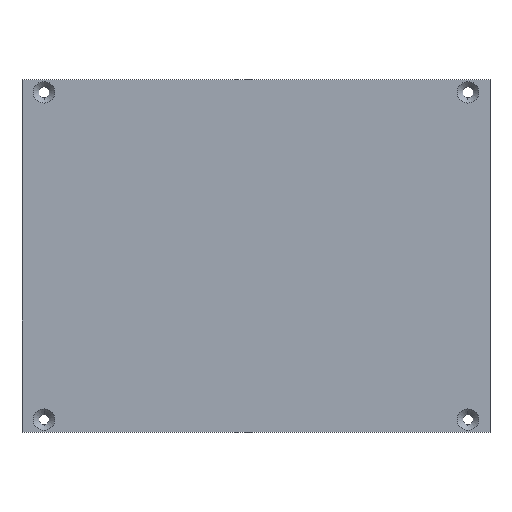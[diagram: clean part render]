
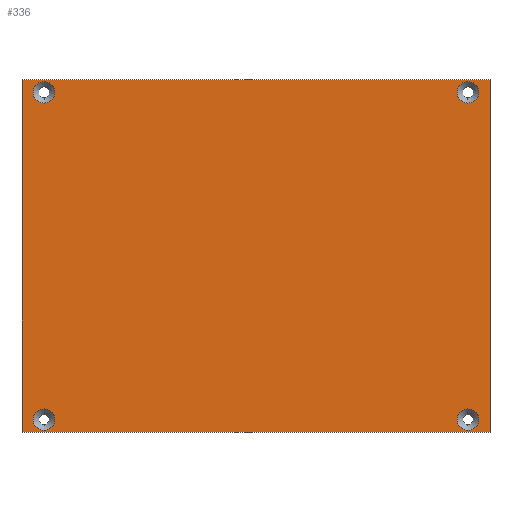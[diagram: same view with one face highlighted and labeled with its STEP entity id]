
A CAD part, top view. The second image highlights one B-rep face of the part: STEP entity #336.
In plain terms, the highlighted planar face has unit normal (0, 0, 1).
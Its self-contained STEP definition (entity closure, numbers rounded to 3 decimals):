
#1=DIRECTION('',(0.,-1.,0.));
#2=VECTOR('',#1,109.596);
#3=CARTESIAN_POINT('',(72.85,398.577,72.5));
#4=LINE('',#3,#2);
#5=DIRECTION('',(-1.,0.,0.));
#6=VECTOR('',#5,145.7);
#7=CARTESIAN_POINT('',(72.85,288.981,72.5));
#8=LINE('',#7,#6);
#9=CARTESIAN_POINT('',(-66.,394.727,72.5));
#10=DIRECTION('',(0.,0.,1.));
#11=DIRECTION('',(0.,1.,0.));
#12=AXIS2_PLACEMENT_3D('',#9,#10,#11);
#14=CARTESIAN_POINT('',(-66.,394.727,72.5));
#15=DIRECTION('',(0.,0.,1.));
#16=DIRECTION('',(0.,-1.,0.));
#17=AXIS2_PLACEMENT_3D('',#14,#15,#16);
#19=CARTESIAN_POINT('',(-66.,292.831,72.5));
#20=DIRECTION('',(0.,0.,1.));
#21=DIRECTION('',(0.,1.,0.));
#22=AXIS2_PLACEMENT_3D('',#19,#20,#21);
#24=CARTESIAN_POINT('',(-66.,292.831,72.5));
#25=DIRECTION('',(0.,0.,1.));
#26=DIRECTION('',(0.,-1.,0.));
#27=AXIS2_PLACEMENT_3D('',#24,#25,#26);
#29=CARTESIAN_POINT('',(66.,292.831,72.5));
#30=DIRECTION('',(0.,0.,1.));
#31=DIRECTION('',(0.,1.,0.));
#32=AXIS2_PLACEMENT_3D('',#29,#30,#31);
#34=CARTESIAN_POINT('',(66.,292.831,72.5));
#35=DIRECTION('',(0.,0.,1.));
#36=DIRECTION('',(0.,-1.,0.));
#37=AXIS2_PLACEMENT_3D('',#34,#35,#36);
#39=CARTESIAN_POINT('',(66.,394.727,72.5));
#40=DIRECTION('',(0.,0.,1.));
#41=DIRECTION('',(0.,1.,0.));
#42=AXIS2_PLACEMENT_3D('',#39,#40,#41);
#44=CARTESIAN_POINT('',(66.,394.727,72.5));
#45=DIRECTION('',(0.,0.,1.));
#46=DIRECTION('',(0.,-1.,0.));
#47=AXIS2_PLACEMENT_3D('',#44,#45,#46);
#57=DIRECTION('',(-1.,0.,0.));
#58=VECTOR('',#57,145.7);
#59=CARTESIAN_POINT('',(72.85,398.577,72.5));
#60=LINE('',#59,#58);
#65=DIRECTION('',(0.,-1.,0.));
#66=VECTOR('',#65,109.596);
#67=CARTESIAN_POINT('',(-72.85,398.577,72.5));
#68=LINE('',#67,#66);
#233=CARTESIAN_POINT('',(72.85,398.577,72.5));
#234=CARTESIAN_POINT('',(72.85,288.981,72.5));
#235=VERTEX_POINT('',#233);
#236=VERTEX_POINT('',#234);
#237=CARTESIAN_POINT('',(-72.85,288.981,72.5));
#238=VERTEX_POINT('',#237);
#239=CARTESIAN_POINT('',(-72.85,398.577,72.5));
#240=VERTEX_POINT('',#239);
#241=CARTESIAN_POINT('',(-66.,398.087,72.5));
#242=CARTESIAN_POINT('',(-66.,391.367,72.5));
#243=VERTEX_POINT('',#241);
#244=VERTEX_POINT('',#242);
#245=CARTESIAN_POINT('',(-66.,296.191,72.5));
#246=CARTESIAN_POINT('',(-66.,289.471,72.5));
#247=VERTEX_POINT('',#245);
#248=VERTEX_POINT('',#246);
#249=CARTESIAN_POINT('',(66.,296.191,72.5));
#250=CARTESIAN_POINT('',(66.,289.471,72.5));
#251=VERTEX_POINT('',#249);
#252=VERTEX_POINT('',#250);
#253=CARTESIAN_POINT('',(66.,398.087,72.5));
#254=CARTESIAN_POINT('',(66.,391.367,72.5));
#255=VERTEX_POINT('',#253);
#256=VERTEX_POINT('',#254);
#297=CARTESIAN_POINT('',(110.002,283.779,72.5));
#298=DIRECTION('',(0.,0.,1.));
#299=DIRECTION('',(0.,1.,0.));
#300=AXIS2_PLACEMENT_3D('',#297,#298,#299);
#301=PLANE('',#300);
#303=ORIENTED_EDGE('',*,*,#302,.T.);
#305=ORIENTED_EDGE('',*,*,#304,.T.);
#307=ORIENTED_EDGE('',*,*,#306,.F.);
#309=ORIENTED_EDGE('',*,*,#308,.F.);
#310=EDGE_LOOP('',(#303,#305,#307,#309));
#311=FACE_OUTER_BOUND('',#310,.F.);
#313=ORIENTED_EDGE('',*,*,#312,.T.);
#315=ORIENTED_EDGE('',*,*,#314,.T.);
#316=EDGE_LOOP('',(#313,#315));
#317=FACE_BOUND('',#316,.F.);
#319=ORIENTED_EDGE('',*,*,#318,.T.);
#321=ORIENTED_EDGE('',*,*,#320,.T.);
#322=EDGE_LOOP('',(#319,#321));
#323=FACE_BOUND('',#322,.F.);
#325=ORIENTED_EDGE('',*,*,#324,.T.);
#327=ORIENTED_EDGE('',*,*,#326,.T.);
#328=EDGE_LOOP('',(#325,#327));
#329=FACE_BOUND('',#328,.F.);
#331=ORIENTED_EDGE('',*,*,#330,.T.);
#333=ORIENTED_EDGE('',*,*,#332,.T.);
#334=EDGE_LOOP('',(#331,#333));
#335=FACE_BOUND('',#334,.F.);
#336=ADVANCED_FACE('',(#311,#317,#323,#329,#335),#301,.T.);
#13=CIRCLE('',#12,3.36);
#18=CIRCLE('',#17,3.36);
#23=CIRCLE('',#22,3.36);
#28=CIRCLE('',#27,3.36);
#33=CIRCLE('',#32,3.36);
#38=CIRCLE('',#37,3.36);
#43=CIRCLE('',#42,3.36);
#48=CIRCLE('',#47,3.36);
#302=EDGE_CURVE('',#235,#236,#4,.T.);
#304=EDGE_CURVE('',#236,#238,#8,.T.);
#306=EDGE_CURVE('',#240,#238,#68,.T.);
#308=EDGE_CURVE('',#235,#240,#60,.T.);
#312=EDGE_CURVE('',#243,#244,#13,.T.);
#314=EDGE_CURVE('',#244,#243,#18,.T.);
#318=EDGE_CURVE('',#247,#248,#23,.T.);
#320=EDGE_CURVE('',#248,#247,#28,.T.);
#324=EDGE_CURVE('',#251,#252,#33,.T.);
#326=EDGE_CURVE('',#252,#251,#38,.T.);
#330=EDGE_CURVE('',#255,#256,#43,.T.);
#332=EDGE_CURVE('',#256,#255,#48,.T.);
